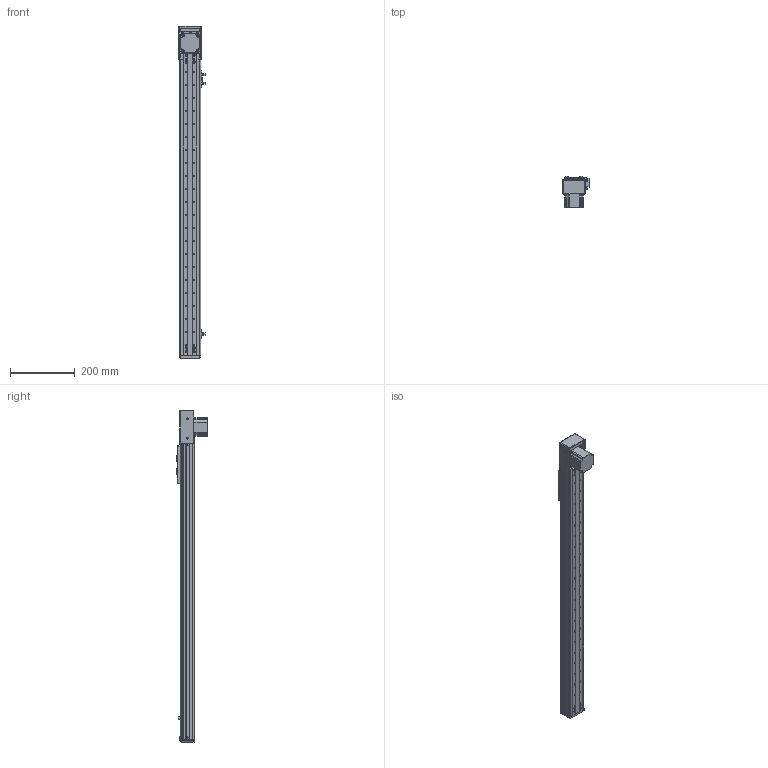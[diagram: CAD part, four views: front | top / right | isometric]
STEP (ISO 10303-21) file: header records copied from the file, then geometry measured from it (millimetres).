
FILE_DESCRIPTION (( 'STEP AP203' ), '1' );
FILE_NAME ('RY60F-T-350-DK.SLDASM_750.step', '2021-03-02T00:56:03', ( '盈信电脑' ), ( '东莞市道滘镇水果街19号' ), 'SwSTEP 2.0', 'SolidWorks 2012', '' );
FILE_SCHEMA (( 'CONFIG_CONTROL_DESIGN' ));
Length unit declared in the file: millimetre
Products named in the file (19): RY60F-T-350-DK.SLDASM_750; RY60F-T-狟殏欶; 57祭輛萇儂; RY60F-肮祭湍揤輸2; RY60F-肮祭湍揤輸; RY60F-T-下折同步带拉紧板; RY60F-T-57萇儂奻殏假蚾啣; 覜茼ん672; 滅袉蝶18-24; RY60F-350-肮祭湍滅鳥詩え-DK_750; RY50F-350-MR15W絳寢-DK_750; RY60F-祥凄詩滅鳥裔; RY60F-350肮祭湍俋褲-DK_750; RY60F-T-下折57电机端同步轮座; RY60F-嫖萇羲壽結え; RY50-60詩湍揤啣; RY60F-滅鳥詩え盓殤; RY60F-浮动端同步轮支撑座; RY60F-肮祭湍臏賑輸
Assembly tree (23 placements, depth 2):
  RY60F-T-350-DK.SLDASM_750
    RY60F-肮祭湍臏賑輸
    RY60F-浮动端同步轮支撑座
    RY60F-滅鳥詩え盓殤
    RY60F-嫖萇羲壽結え
    RY50-60詩湍揤啣  x2
    RY60F-祥凄詩滅鳥裔
    RY60F-T-下折57电机端同步轮座
    RY60F-350肮祭湍俋褲-DK_750  x2
    覜茼ん672  x3
    RY60F-350-肮祭湍滅鳥詩え-DK_750
    RY50F-350-MR15W絳寢-DK_750
    滅袉蝶18-24  x2
    RY60F-T-57萇儂奻殏假蚾啣
    RY60F-T-下折同步带拉紧板
    RY60F-肮祭湍揤輸
    RY60F-肮祭湍揤輸2
    57祭輛萇儂
    RY60F-T-狟殏欶
Bounding box: 80.76 x 96.5 x 1023 mm (x, y, z)
Volume: 985331.5 mm3; surface area: 647022.6 mm2
Topology: 23 solids, 23 shells, 1190 faces, 3266 edges, 2100 vertices
Faces by surface type: cylinder 563, plane 546, cone 71, bspline 10
Entity records: 36721 total; most frequent: CARTESIAN_POINT 6649, DIRECTION 5944, ORIENTED_EDGE 5708, EDGE_CURVE 2854, AXIS2_PLACEMENT_3D 2103, VERTEX_POINT 1868, LINE 1738, VECTOR 1738
